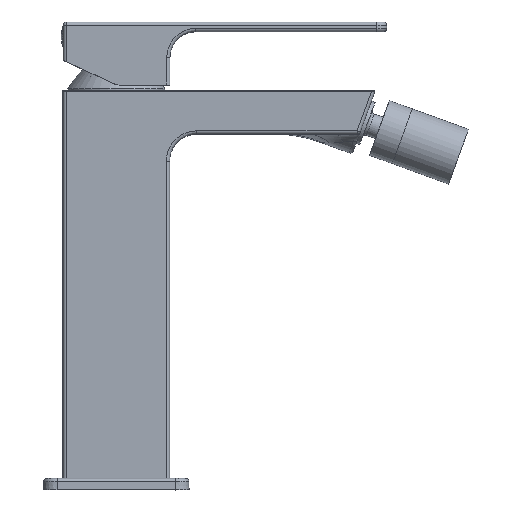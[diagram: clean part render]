
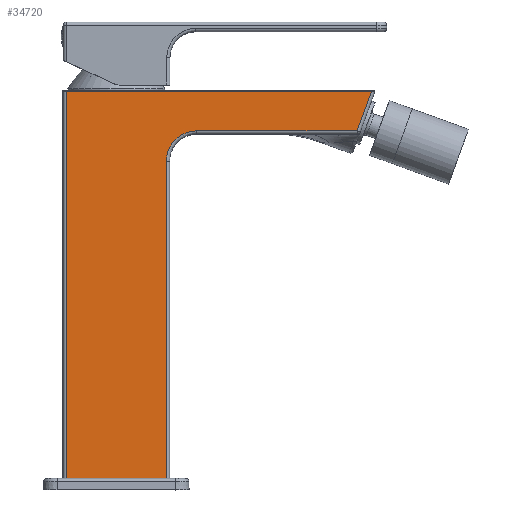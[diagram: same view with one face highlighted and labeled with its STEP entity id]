
A CAD part, top view. The second image highlights one B-rep face of the part: STEP entity #34720.
In plain terms, the highlighted planar face has unit normal (0, 0, 1).
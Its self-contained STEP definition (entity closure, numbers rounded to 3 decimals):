
#21492=DIRECTION('',(0.,-1.,0.));
#21493=VECTOR('',#21492,98.1);
#21494=CARTESIAN_POINT('',(-17.984,98.1,16.5));
#21495=LINE('',#21494,#21493);
#21946=CARTESIAN_POINT('',(-8.584,98.1,16.5));
#21947=DIRECTION('',(0.,0.,-1.));
#21948=DIRECTION('',(-1.,0.,0.));
#21949=AXIS2_PLACEMENT_3D('',#21946,#21947,#21948);
#21951=DIRECTION('',(1.,0.,0.));
#21952=VECTOR('',#21951,31.);
#21953=CARTESIAN_POINT('',(-48.984,0.,16.5));
#21954=LINE('',#21953,#21952);
#21955=DIRECTION('',(-1.,0.,0.));
#21956=VECTOR('',#21955,94.458);
#21957=CARTESIAN_POINT('',(45.474,119.8,16.5));
#21958=LINE('',#21957,#21956);
#21959=DIRECTION('',(0.342,0.94,0.));
#21960=VECTOR('',#21959,13.089);
#21961=CARTESIAN_POINT('',(40.997,107.5,16.5));
#21962=LINE('',#21961,#21960);
#21963=DIRECTION('',(1.,0.,0.));
#21964=VECTOR('',#21963,49.581);
#21965=CARTESIAN_POINT('',(-8.584,107.5,16.5));
#21966=LINE('',#21965,#21964);
#21971=DIRECTION('',(0.,1.,0.));
#21972=VECTOR('',#21971,119.8);
#21973=CARTESIAN_POINT('',(-48.984,0.,16.5));
#21974=LINE('',#21973,#21972);
#29648=CARTESIAN_POINT('',(-17.984,0.,16.5));
#29649=VERTEX_POINT('',#29648);
#29650=CARTESIAN_POINT('',(-48.984,0.,16.5));
#29651=VERTEX_POINT('',#29650);
#29741=CARTESIAN_POINT('',(-8.584,107.5,16.5));
#29743=VERTEX_POINT('',#29741);
#29744=CARTESIAN_POINT('',(-17.984,98.1,16.5));
#29745=VERTEX_POINT('',#29744);
#29748=CARTESIAN_POINT('',(-48.984,119.8,
16.5));
#29749=VERTEX_POINT('',#29748);
#29784=CARTESIAN_POINT('',(45.474,119.8,16.5));
#29786=VERTEX_POINT('',#29784);
#29890=CARTESIAN_POINT('',(40.997,107.5,16.5));
#29891=VERTEX_POINT('',#29890);
#34704=CARTESIAN_POINT('',(-48.997,-0.012,16.5));
#34705=DIRECTION('',(0.,0.,1.));
#34706=DIRECTION('',(1.,0.,0.));
#34707=AXIS2_PLACEMENT_3D('',#34704,#34705,#34706);
#34708=PLANE('',#34707);
#34709=ORIENTED_EDGE('',*,*,#34697,.F.);
#34710=ORIENTED_EDGE('',*,*,#32650,.T.);
#34711=ORIENTED_EDGE('',*,*,#32570,.F.);
#34713=ORIENTED_EDGE('',*,*,#34712,.T.);
#34715=ORIENTED_EDGE('',*,*,#34714,.F.);
#34716=ORIENTED_EDGE('',*,*,#34644,.F.);
#34717=ORIENTED_EDGE('',*,*,#34681,.F.);
#34718=EDGE_LOOP('',(#34709,#34710,#34711,#34713,#34715,#34716,#34717));
#34719=FACE_OUTER_BOUND('',#34718,.F.);
#21950=CIRCLE('',#21949,9.4);
#32570=EDGE_CURVE('',#29651,#29649,#21954,.T.);
#32650=EDGE_CURVE('',#29745,#29649,#21495,.T.);
#34644=EDGE_CURVE('',#29891,#29786,#21962,.T.);
#34681=EDGE_CURVE('',#29743,#29891,#21966,.T.);
#34697=EDGE_CURVE('',#29745,#29743,#21950,.T.);
#34712=EDGE_CURVE('',#29651,#29749,#21974,.T.);
#34714=EDGE_CURVE('',#29786,#29749,#21958,.T.);
#34720=ADVANCED_FACE('',(#34719),#34708,.T.);
